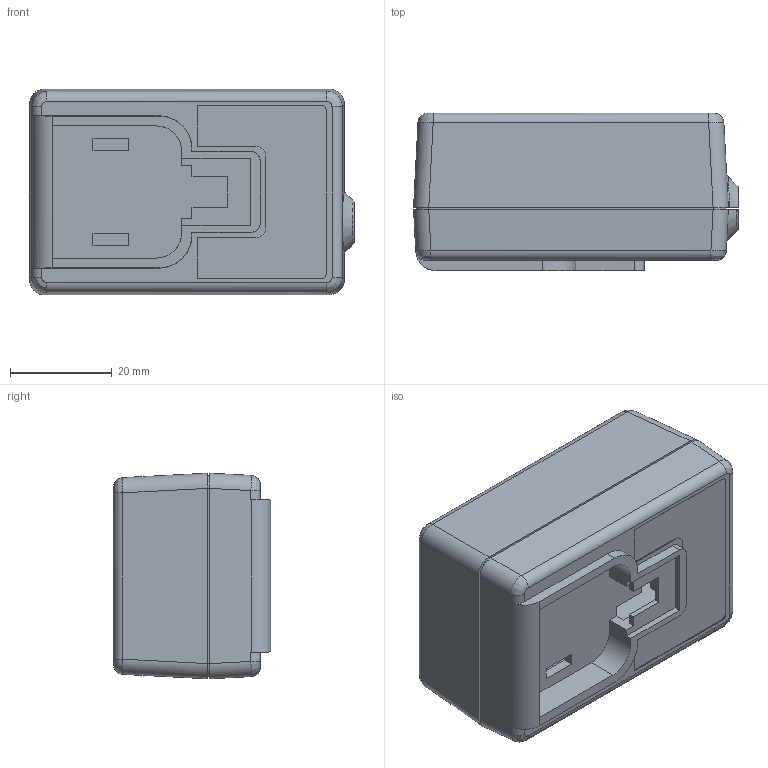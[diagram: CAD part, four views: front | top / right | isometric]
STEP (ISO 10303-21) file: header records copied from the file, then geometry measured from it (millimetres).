
FILE_DESCRIPTION (( 'STEP AP203' ), '1' );
FILE_NAME ('0609.STEP', '2021-12-17T00:26:20', ( '' ), ( '' ), 'SwSTEP 2.0', 'SolidWorks 2014', '' );
FILE_SCHEMA (( 'CONFIG_CONTROL_DESIGN' ));
Length unit declared in the file: millimetre
Products named in the file (3): 0609; E060801-00; E060900-00
Assembly tree (2 placements, depth 2):
  0609
    E060801-00
    E060900-00
Bounding box: 64 x 31 x 40.5 mm (x, y, z)
Volume: 19958.4 mm3; surface area: 22921.8 mm2
Topology: 2 solids, 2 shells, 503 faces, 1368 edges, 886 vertices
Faces by surface type: plane 378, cylinder 76, bspline 47, cone 2
Entity records: 18512 total; most frequent: CARTESIAN_POINT 6092, ORIENTED_EDGE 2736, DIRECTION 2160, EDGE_CURVE 1368, LINE 1076, VECTOR 1076, VERTEX_POINT 886, AXIS2_PLACEMENT_3D 542
